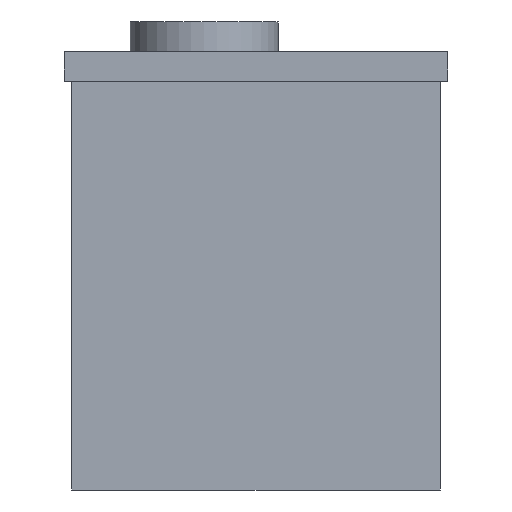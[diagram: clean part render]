
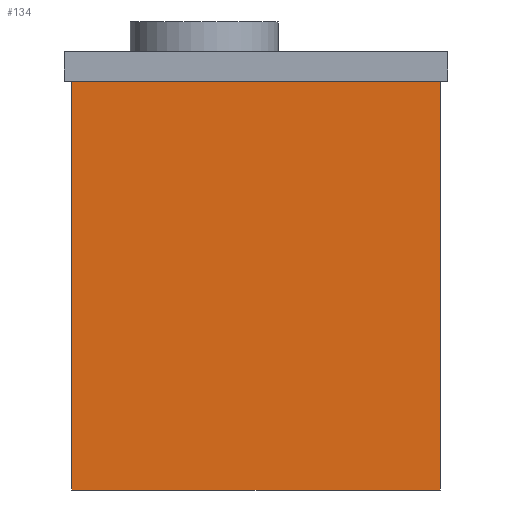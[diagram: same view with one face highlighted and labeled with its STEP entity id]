
A CAD part, front view. The second image highlights one B-rep face of the part: STEP entity #134.
In plain terms, the highlighted planar face has unit normal (0, -1, 0).
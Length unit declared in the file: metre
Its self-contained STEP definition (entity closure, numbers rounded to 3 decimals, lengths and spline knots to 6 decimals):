
#134=ADVANCED_FACE('0:69',(#317),#318,.T.);
#317=FACE_OUTER_BOUND('',#536,.T.);
#318=PLANE('',#537);
#536=EDGE_LOOP('',(#1384,#1385,#1386,#1387));
#537=AXIS2_PLACEMENT_3D('',#1388,#1389,#1390);
#1384=ORIENTED_EDGE('',*,*,#1622,.F.);
#1385=ORIENTED_EDGE('',*,*,#1625,.T.);
#1386=ORIENTED_EDGE('',*,*,#1630,.F.);
#1387=ORIENTED_EDGE('',*,*,#1598,.F.);
#1388=CARTESIAN_POINT('',(0.259,-0.675,0.0));
#1389=DIRECTION('',(0.0,-1.0,0.0));
#1390=DIRECTION('',(0.0,0.0,-1.0));
#1598=EDGE_CURVE('0:162',#1946,#1948,#1949,.T.);
#1622=EDGE_CURVE('0:150',#1985,#1946,#1987,.T.);
#1625=EDGE_CURVE('0:171',#1985,#1989,#1991,.F.);
#1630=EDGE_CURVE('0:186',#1948,#1989,#2000,.T.);
#1946=VERTEX_POINT('',#2716);
#1948=VERTEX_POINT('',#2719);
#1949=LINE('',#2720,#2721);
#1985=VERTEX_POINT('',#2775);
#1987=LINE('',#2778,#2779);
#1989=VERTEX_POINT('',#2782);
#1991=LINE('',#2785,#2786);
#2000=LINE('',#2799,#2800);
#2716=CARTESIAN_POINT('',(0.01,-0.675,0.0));
#2719=CARTESIAN_POINT('',(0.01,-0.675,0.552));
#2720=CARTESIAN_POINT('',(0.01,-0.675,0.0));
#2721=VECTOR('',#2936,1.0);
#2775=CARTESIAN_POINT('',(0.508,-0.675,0.0));
#2778=CARTESIAN_POINT('',(0.1295,-0.675,0.0));
#2779=VECTOR('',#2968,1.0);
#2782=CARTESIAN_POINT('',(0.508,-0.675,0.552));
#2785=CARTESIAN_POINT('',(0.508,-0.675,0.0));
#2786=VECTOR('',#2971,1.0);
#2799=CARTESIAN_POINT('',(0.259,-0.675,0.552));
#2800=VECTOR('',#2976,1.0);
#2936=DIRECTION('',(0.0,0.0,1.0));
#2968=DIRECTION('',(-1.0,0.0,0.0));
#2971=DIRECTION('',(0.0,-0.0,-1.0));
#2976=DIRECTION('',(1.0,0.0,0.0));
